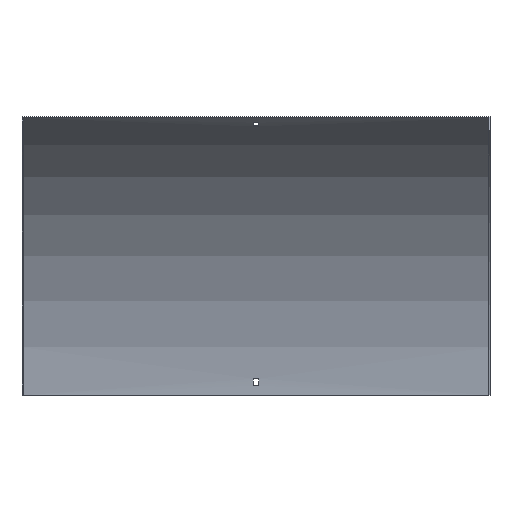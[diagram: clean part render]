
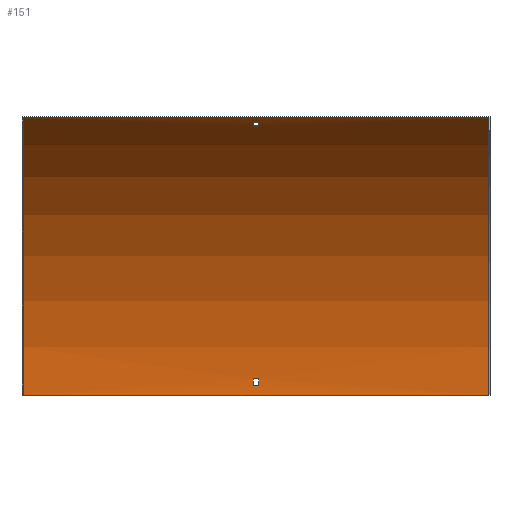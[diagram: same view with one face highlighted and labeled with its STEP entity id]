
A CAD part, front view. The second image highlights one B-rep face of the part: STEP entity #151.
In plain terms, the highlighted cylindrical face has radius 412.5 mm (diameter 825 mm), a partial arc.
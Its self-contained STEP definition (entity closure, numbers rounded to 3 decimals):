
#1 = CARTESIAN_POINT ( 'NONE',  ( 301.5, -189.831, 346.272 ) ) ;
#11 = EDGE_CURVE ( 'NONE', #412, #580, #112, .T. ) ;
#14 = DIRECTION ( 'NONE',  ( 0., 0., 1. ) ) ;
#21 = DIRECTION ( 'NONE',  ( 0., 0., 1. ) ) ;
#22 = VERTEX_POINT ( 'NONE', #552 ) ;
#28 = VERTEX_POINT ( 'NONE', #143 ) ;
#32 = VECTOR ( 'NONE', #487, 1000. ) ;
#33 = CYLINDRICAL_SURFACE ( 'NONE', #426, 412.5 ) ;
#37 = ORIENTED_EDGE ( 'NONE', *, *, #219, .T. ) ;
#39 = EDGE_CURVE ( 'NONE', #195, #516, #280, .T. ) ;
#40 = CARTESIAN_POINT ( 'NONE',  ( 300., -1.5, 0. ) ) ;
#52 = CARTESIAN_POINT ( 'NONE',  ( 300., -414., 0. ) ) ;
#54 = CARTESIAN_POINT ( 'NONE',  ( 3.25, -414., 0. ) ) ;
#56 = DIRECTION ( 'NONE',  ( 1., 0., 0. ) ) ;
#59 = AXIS2_PLACEMENT_3D ( 'NONE', #102, #341, #350 ) ;
#61 = CARTESIAN_POINT ( 'NONE',  ( -3.25, -197.445, 351.084 ) ) ;
#78 = VERTEX_POINT ( 'NONE', #515 ) ;
#89 = CARTESIAN_POINT ( 'NONE',  ( -3.25, -189.831, 346.272 ) ) ;
#98 = LINE ( 'NONE', #1, #416 ) ;
#101 = EDGE_CURVE ( 'NONE', #348, #78, #556, .T. ) ;
#102 = CARTESIAN_POINT ( 'NONE',  ( -300., -414., 0. ) ) ;
#112 = CIRCLE ( 'NONE', #354, 412.5 ) ;
#123 = VECTOR ( 'NONE', #137, 1000. ) ;
#129 = VERTEX_POINT ( 'NONE', #89 ) ;
#137 = DIRECTION ( 'NONE',  ( -1., 0., 0. ) ) ;
#143 = CARTESIAN_POINT ( 'NONE',  ( 3.25, -197.445, 351.084 ) ) ;
#151 = ADVANCED_FACE ( 'NONE', ( #285, #327, #604 ), #33, .F. ) ;
#158 = CARTESIAN_POINT ( 'NONE',  ( 301.5, -197.445, 351.084 ) ) ;
#159 = CIRCLE ( 'NONE', #59, 412.5 ) ;
#187 = EDGE_CURVE ( 'NONE', #129, #223, #484, .T. ) ;
#188 = DIRECTION ( 'NONE',  ( -1., 0., 0. ) ) ;
#195 = VERTEX_POINT ( 'NONE', #202 ) ;
#198 = DIRECTION ( 'NONE',  ( 1., 0., 0. ) ) ;
#199 = LINE ( 'NONE', #158, #312 ) ;
#202 = CARTESIAN_POINT ( 'NONE',  ( 300., -1.5, 0. ) ) ;
#203 = DIRECTION ( 'NONE',  ( -1., 0., 0. ) ) ;
#205 = ORIENTED_EDGE ( 'NONE', *, *, #101, .T. ) ;
#207 = CARTESIAN_POINT ( 'NONE',  ( -300., -1.5, 0. ) ) ;
#214 = EDGE_CURVE ( 'NONE', #516, #78, #159, .T. ) ;
#219 = EDGE_CURVE ( 'NONE', #22, #129, #98, .T. ) ;
#223 = VERTEX_POINT ( 'NONE', #61 ) ;
#226 = CARTESIAN_POINT ( 'NONE',  ( 301.5, -414., 0. ) ) ;
#228 = CARTESIAN_POINT ( 'NONE',  ( 300., -207.75, 357.235 ) ) ;
#243 = DIRECTION ( 'NONE',  ( 0., 0., -1. ) ) ;
#244 = DIRECTION ( 'NONE',  ( -1., 0., 0. ) ) ;
#245 = DIRECTION ( 'NONE',  ( -1., 0., 0. ) ) ;
#251 = DIRECTION ( 'NONE',  ( 1., 0., 0. ) ) ;
#263 = CARTESIAN_POINT ( 'NONE',  ( -3.25, -414., 0. ) ) ;
#273 = ORIENTED_EDGE ( 'NONE', *, *, #39, .F. ) ;
#275 = EDGE_CURVE ( 'NONE', #436, #412, #287, .T. ) ;
#280 = LINE ( 'NONE', #40, #501 ) ;
#281 = DIRECTION ( 'NONE',  ( 0., 0., 1. ) ) ;
#285 = FACE_BOUND ( 'NONE', #308, .T. ) ;
#287 = LINE ( 'NONE', #471, #319 ) ;
#308 = EDGE_LOOP ( 'NONE', ( #395, #387, #540, #411 ) ) ;
#309 = DIRECTION ( 'NONE',  ( 0., 1., 0. ) ) ;
#310 = DIRECTION ( 'NONE',  ( 0., 0., -1. ) ) ;
#312 = VECTOR ( 'NONE', #342, 1000. ) ;
#319 = VECTOR ( 'NONE', #244, 1000. ) ;
#321 = ORIENTED_EDGE ( 'NONE', *, *, #543, .T. ) ;
#327 = FACE_OUTER_BOUND ( 'NONE', #570, .T. ) ;
#338 = CARTESIAN_POINT ( 'NONE',  ( -3.25, -414., 0. ) ) ;
#341 = DIRECTION ( 'NONE',  ( 1., 0., 0. ) ) ;
#342 = DIRECTION ( 'NONE',  ( 1., 0., 0. ) ) ;
#347 = CARTESIAN_POINT ( 'NONE',  ( 301.5, -1.675, 12. ) ) ;
#348 = VERTEX_POINT ( 'NONE', #228 ) ;
#350 = DIRECTION ( 'NONE',  ( 0., 0., -1. ) ) ;
#352 = CARTESIAN_POINT ( 'NONE',  ( 3.25, -414., 0. ) ) ;
#354 = AXIS2_PLACEMENT_3D ( 'NONE', #263, #451, #21 ) ;
#375 = ORIENTED_EDGE ( 'NONE', *, *, #187, .T. ) ;
#384 = VERTEX_POINT ( 'NONE', #514 ) ;
#387 = ORIENTED_EDGE ( 'NONE', *, *, #275, .F. ) ;
#388 = CARTESIAN_POINT ( 'NONE',  ( 3.25, -2.035, 21. ) ) ;
#390 = CIRCLE ( 'NONE', #564, 412.5 ) ;
#395 = ORIENTED_EDGE ( 'NONE', *, *, #11, .F. ) ;
#409 = ORIENTED_EDGE ( 'NONE', *, *, #214, .F. ) ;
#411 = ORIENTED_EDGE ( 'NONE', *, *, #459, .F. ) ;
#412 = VERTEX_POINT ( 'NONE', #519 ) ;
#416 = VECTOR ( 'NONE', #245, 1000. ) ;
#426 = AXIS2_PLACEMENT_3D ( 'NONE', #226, #508, #281 ) ;
#436 = VERTEX_POINT ( 'NONE', #388 ) ;
#451 = DIRECTION ( 'NONE',  ( -1., 0., 0. ) ) ;
#457 = ORIENTED_EDGE ( 'NONE', *, *, #467, .T. ) ;
#459 = EDGE_CURVE ( 'NONE', #580, #384, #479, .T. ) ;
#467 = EDGE_CURVE ( 'NONE', #195, #348, #390, .T. ) ;
#468 = CARTESIAN_POINT ( 'NONE',  ( 300., -207.75, 357.235 ) ) ;
#471 = CARTESIAN_POINT ( 'NONE',  ( 301.5, -2.035, 21. ) ) ;
#474 = CIRCLE ( 'NONE', #500, 412.5 ) ;
#479 = LINE ( 'NONE', #347, #32 ) ;
#480 = EDGE_CURVE ( 'NONE', #223, #28, #199, .T. ) ;
#484 = CIRCLE ( 'NONE', #590, 412.5 ) ;
#487 = DIRECTION ( 'NONE',  ( 1., 0., 0. ) ) ;
#493 = CARTESIAN_POINT ( 'NONE',  ( -3.25, -1.675, 12. ) ) ;
#496 = EDGE_CURVE ( 'NONE', #384, #436, #474, .T. ) ;
#500 = AXIS2_PLACEMENT_3D ( 'NONE', #54, #251, #243 ) ;
#501 = VECTOR ( 'NONE', #188, 1000. ) ;
#505 = EDGE_LOOP ( 'NONE', ( #37, #375, #513, #321 ) ) ;
#508 = DIRECTION ( 'NONE',  ( -1., 0., 0. ) ) ;
#513 = ORIENTED_EDGE ( 'NONE', *, *, #480, .T. ) ;
#514 = CARTESIAN_POINT ( 'NONE',  ( 3.25, -1.675, 12. ) ) ;
#515 = CARTESIAN_POINT ( 'NONE',  ( -300., -207.75, 357.235 ) ) ;
#516 = VERTEX_POINT ( 'NONE', #207 ) ;
#519 = CARTESIAN_POINT ( 'NONE',  ( -3.25, -2.035, 21. ) ) ;
#540 = ORIENTED_EDGE ( 'NONE', *, *, #496, .F. ) ;
#543 = EDGE_CURVE ( 'NONE', #28, #22, #545, .T. ) ;
#545 = CIRCLE ( 'NONE', #582, 412.5 ) ;
#552 = CARTESIAN_POINT ( 'NONE',  ( 3.25, -189.831, 346.272 ) ) ;
#556 = LINE ( 'NONE', #468, #123 ) ;
#564 = AXIS2_PLACEMENT_3D ( 'NONE', #52, #56, #310 ) ;
#570 = EDGE_LOOP ( 'NONE', ( #409, #273, #457, #205 ) ) ;
#580 = VERTEX_POINT ( 'NONE', #493 ) ;
#582 = AXIS2_PLACEMENT_3D ( 'NONE', #352, #203, #14 ) ;
#590 = AXIS2_PLACEMENT_3D ( 'NONE', #338, #198, #309 ) ;
#604 = FACE_BOUND ( 'NONE', #505, .T. ) ;
